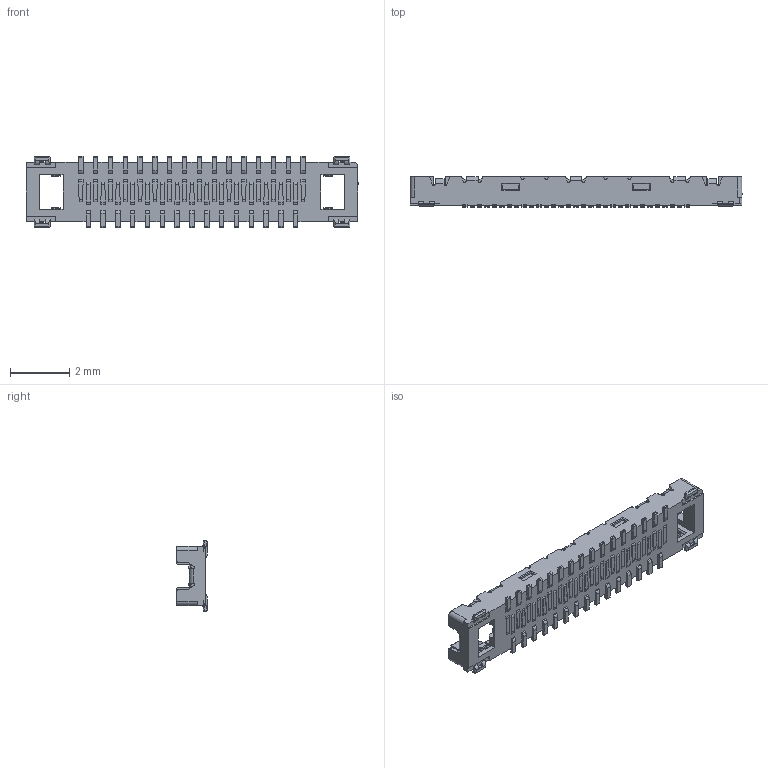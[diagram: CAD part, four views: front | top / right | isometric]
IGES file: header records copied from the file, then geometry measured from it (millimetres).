
Start section: SolidWorks IGES file using analytic representation for surfaces
Global section: file name: C:\Users\ieng2-001\Desktop\WORKING\koyanagi\20190212 CAB-UX II 30P Web model\20533-030ExC RECE ASS'Y STEP R4 ALL.IGS; native system: SolidWorks 2017; preprocessor: SolidWorks 2017; author: ieng2-001; date: 190212.101522; units: millimetre
Bounding box: 11.2 x 1.04 x 2.4 mm (x, y, z)
Surface area: 91 mm2 (no closed solid volume)
Topology: 0 solids, 0 shells, 1712 faces, 9861 edges, 9853 vertices
Faces by surface type: bspline 1468, revolution 244
